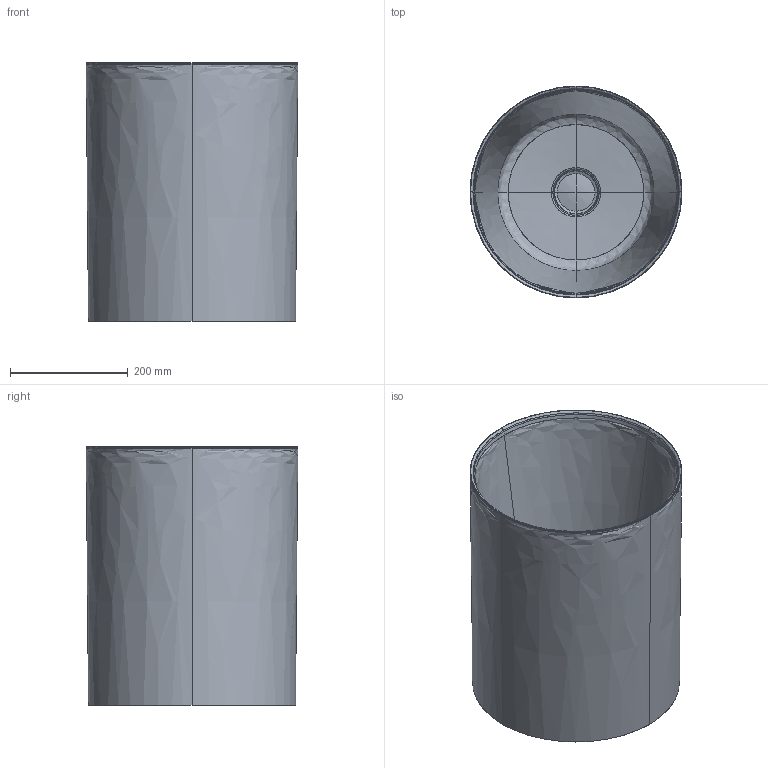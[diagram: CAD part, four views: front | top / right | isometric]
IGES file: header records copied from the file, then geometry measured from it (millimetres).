
Start section: START RECORD GO HERE.
Global section: file name: 7305.igs; native system: DASSAULT SYSTEMES CATIA V5 R19 - www.3ds.com; preprocessor: CATIA Version 5 Release 19 SP 5 ; author: gioge; organization: LAPTOP-G94B6G74; date: 20201001.121133; units: millimetre
Bounding box: 359.81 x 359.81 x 439.99 mm (x, y, z)
Surface area: 1715664 mm2 (no closed solid volume)
Topology: 0 solids, 0 shells, 152 faces, 612 edges, 608 vertices
Faces by surface type: bspline 152
